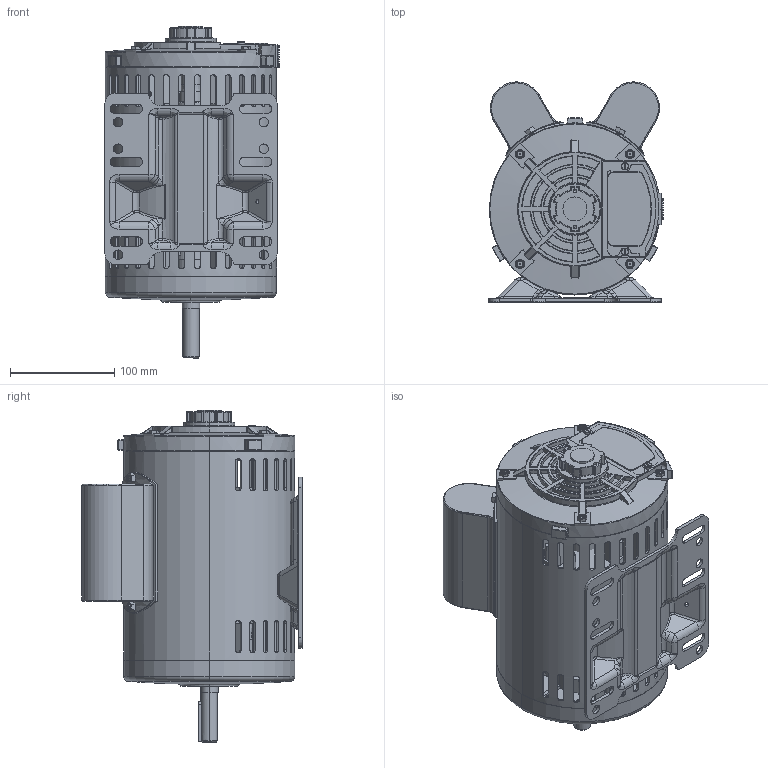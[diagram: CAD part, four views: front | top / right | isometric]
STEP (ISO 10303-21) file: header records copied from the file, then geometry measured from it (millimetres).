
FILE_DESCRIPTION (( 'STEP AP203' ), '1' );
FILE_NAME ('200.STEP', '2025-03-04T02:16:32', ( 'User' ), ( 'China' ), 'SwSTEP 2.0', 'SolidWorks 2019', '' );
FILE_SCHEMA (( 'CONFIG_CONTROL_DESIGN' ));
Length unit declared in the file: millimetre
Products named in the file (6): 200lg; 200; 200儂褲; +g; 200郋粣; +d
Assembly tree (8 placements, depth 2):
  200
    200儂褲
    +g
    200郋粣
    +d
    200lg  x4
Bounding box: 167 x 210.87 x 318.15 mm (x, y, z)
Volume: 1785880.8 mm3; surface area: 742125.5 mm2
Topology: 31 solids, 31 shells, 3318 faces, 8738 edges, 5506 vertices
Faces by surface type: cylinder 1386, plane 1085, torus 286, bspline 285, cone 210, sphere 66
Entity records: 118917 total; most frequent: CARTESIAN_POINT 47393, ORIENTED_EDGE 15470, DIRECTION 14110, EDGE_CURVE 7735, AXIS2_PLACEMENT_3D 5337, VERTEX_POINT 4881, VECTOR 3436, LINE 3436
